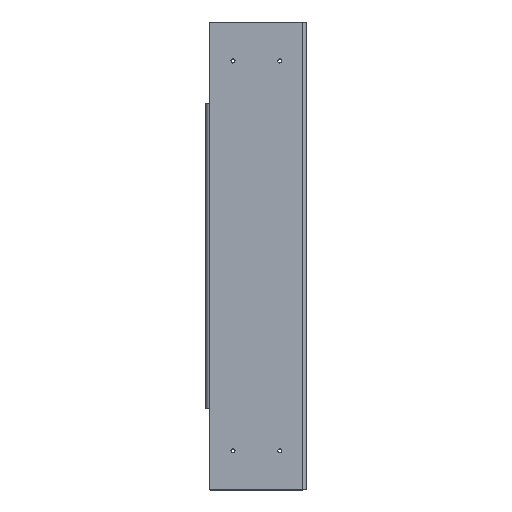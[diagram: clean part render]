
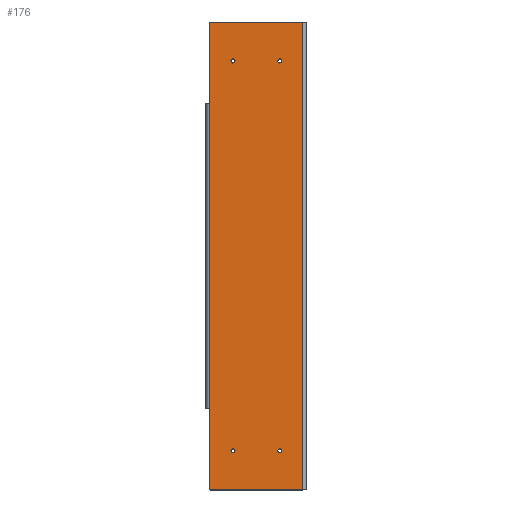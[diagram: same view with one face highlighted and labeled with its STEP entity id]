
A CAD part, top view. The second image highlights one B-rep face of the part: STEP entity #176.
In plain terms, the highlighted planar face has unit normal (0, 0, 1).
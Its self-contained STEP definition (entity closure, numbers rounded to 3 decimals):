
#59=CARTESIAN_POINT('',(1580.,4693.5,7.5));
#60=DIRECTION('',(-0.,-0.,1.));
#61=DIRECTION('',(0.,1.,0.));
#62=AXIS2_PLACEMENT_3D('',#59,#60,#61);
#63=PLANE('',#62);
#64=CARTESIAN_POINT('',(1530.,4730.9,7.5));
#65=VERTEX_POINT('',#64);
#66=CARTESIAN_POINT('',(1530.,4733.5,7.5));
#67=DIRECTION('',(-0.,-0.,1.));
#68=DIRECTION('',(0.,-1.,-0.));
#69=AXIS2_PLACEMENT_3D('',#66,#67,#68);
#70=CIRCLE('',#69,2.6);
#71=EDGE_CURVE('',#65,#65,#70,.T.);
#72=ORIENTED_EDGE('',*,*,#71,.F.);
#73=EDGE_LOOP('',(#72));
#74=FACE_BOUND('',#73,.T.);
#75=CARTESIAN_POINT('',(1590.,4730.9,7.5));
#76=VERTEX_POINT('',#75);
#77=CARTESIAN_POINT('',(1590.,4733.5,7.5));
#78=DIRECTION('',(-0.,-0.,1.));
#79=DIRECTION('',(0.,-1.,-0.));
#80=AXIS2_PLACEMENT_3D('',#77,#78,#79);
#81=CIRCLE('',#80,2.6);
#82=EDGE_CURVE('',#76,#76,#81,.T.);
#83=ORIENTED_EDGE('',*,*,#82,.F.);
#84=EDGE_LOOP('',(#83));
#85=FACE_BOUND('',#84,.T.);
#86=CARTESIAN_POINT('',(1530.,5230.9,7.5));
#87=VERTEX_POINT('',#86);
#88=CARTESIAN_POINT('',(1530.,5233.5,7.5));
#89=DIRECTION('',(-0.,-0.,1.));
#90=DIRECTION('',(0.,-1.,-0.));
#91=AXIS2_PLACEMENT_3D('',#88,#89,#90);
#92=CIRCLE('',#91,2.6);
#93=EDGE_CURVE('',#87,#87,#92,.T.);
#94=ORIENTED_EDGE('',*,*,#93,.F.);
#95=EDGE_LOOP('',(#94));
#96=FACE_BOUND('',#95,.T.);
#97=CARTESIAN_POINT('',(1590.,5230.9,7.5));
#98=VERTEX_POINT('',#97);
#99=CARTESIAN_POINT('',(1590.,5233.5,7.5));
#100=DIRECTION('',(-0.,-0.,1.));
#101=DIRECTION('',(0.,-1.,-0.));
#102=AXIS2_PLACEMENT_3D('',#99,#100,#101);
#103=CIRCLE('',#102,2.6);
#104=EDGE_CURVE('',#98,#98,#103,.T.);
#105=ORIENTED_EDGE('',*,*,#104,.F.);
#106=EDGE_LOOP('',(#105));
#107=FACE_BOUND('',#106,.T.);
#108=CARTESIAN_POINT('',(1619.,4683.5,7.5));
#109=VERTEX_POINT('',#108);
#110=CARTESIAN_POINT('',(1501.,4683.5,7.5));
#111=VERTEX_POINT('',#110);
#112=CARTESIAN_POINT('',(1619.,4683.5,7.5));
#113=DIRECTION('',(-1.,0.,0.));
#114=VECTOR('',#113,118.);
#115=LINE('',#112,#114);
#116=EDGE_CURVE('',#109,#111,#115,.T.);
#117=ORIENTED_EDGE('',*,*,#116,.F.);
#118=CARTESIAN_POINT('',(1619.,5283.5,7.5));
#119=VERTEX_POINT('',#118);
#120=CARTESIAN_POINT('',(1619.,4683.5,7.5));
#121=DIRECTION('',(0.,1.,0.));
#122=VECTOR('',#121,600.);
#123=LINE('',#120,#122);
#124=EDGE_CURVE('',#109,#119,#123,.T.);
#125=ORIENTED_EDGE('',*,*,#124,.T.);
#126=CARTESIAN_POINT('',(1501.,5283.5,7.5));
#127=VERTEX_POINT('',#126);
#128=CARTESIAN_POINT('',(1619.,5283.5,7.5));
#129=DIRECTION('',(-1.,0.,0.));
#130=VECTOR('',#129,118.);
#131=LINE('',#128,#130);
#132=EDGE_CURVE('',#119,#127,#131,.T.);
#133=ORIENTED_EDGE('',*,*,#132,.T.);
#134=CARTESIAN_POINT('',(1500.,5282.5,7.5));
#135=VERTEX_POINT('',#134);
#136=CARTESIAN_POINT('',(1501.,5282.5,7.5));
#137=DIRECTION('',(-0.,-0.,1.));
#138=DIRECTION('',(0.,-1.,-0.));
#139=AXIS2_PLACEMENT_3D('',#136,#137,#138);
#140=CIRCLE('',#139,1.);
#141=EDGE_CURVE('',#127,#135,#140,.T.);
#142=ORIENTED_EDGE('',*,*,#141,.T.);
#143=CARTESIAN_POINT('',(1500.,5179.5,7.5));
#144=VERTEX_POINT('',#143);
#145=CARTESIAN_POINT('',(1500.,5179.5,7.5));
#146=DIRECTION('',(0.,1.,0.));
#147=VECTOR('',#146,103.);
#148=LINE('',#145,#147);
#149=EDGE_CURVE('',#144,#135,#148,.T.);
#150=ORIENTED_EDGE('',*,*,#149,.F.);
#151=CARTESIAN_POINT('',(1500.,4787.5,7.5));
#152=VERTEX_POINT('',#151);
#153=CARTESIAN_POINT('',(1500.,5179.5,7.5));
#154=DIRECTION('',(-0.,-1.,-0.));
#155=VECTOR('',#154,392.);
#156=LINE('',#153,#155);
#157=EDGE_CURVE('',#144,#152,#156,.T.);
#158=ORIENTED_EDGE('',*,*,#157,.T.);
#159=CARTESIAN_POINT('',(1500.,4684.5,7.5));
#160=VERTEX_POINT('',#159);
#161=CARTESIAN_POINT('',(1500.,4787.5,7.5));
#162=DIRECTION('',(0.,-1.,-0.));
#163=VECTOR('',#162,103.);
#164=LINE('',#161,#163);
#165=EDGE_CURVE('',#152,#160,#164,.T.);
#166=ORIENTED_EDGE('',*,*,#165,.T.);
#167=CARTESIAN_POINT('',(1501.,4684.5,7.5));
#168=DIRECTION('',(-0.,-0.,1.));
#169=DIRECTION('',(0.,-1.,-0.));
#170=AXIS2_PLACEMENT_3D('',#167,#168,#169);
#171=CIRCLE('',#170,1.);
#172=EDGE_CURVE('',#160,#111,#171,.T.);
#173=ORIENTED_EDGE('',*,*,#172,.T.);
#174=EDGE_LOOP('',(#117,#125,#133,#142,#150,#158,#166,#173));
#175=FACE_BOUND('',#174,.T.);
#176=ADVANCED_FACE('',(#74,#85,#96,#107,#175),#63,.T.);
